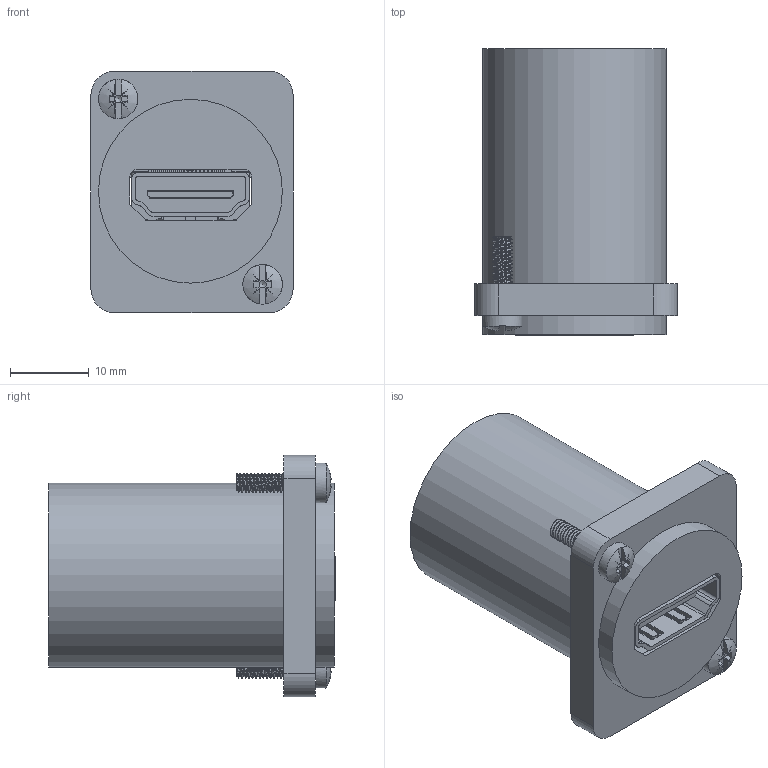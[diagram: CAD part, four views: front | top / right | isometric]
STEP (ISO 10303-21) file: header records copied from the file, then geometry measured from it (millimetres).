
FILE_DESCRIPTION(('FreeCAD Model'),'2;1');
FILE_NAME('Open CASCADE Shape Model','2024-03-11T08:56:15',(''),(''), 'Open CASCADE STEP processor 7.6','FreeCAD','Unknown');
FILE_SCHEMA(('AUTOMOTIVE_DESIGN { 1 0 10303 214 1 1 1 1 }'));
Length unit declared in the file: millimetre
Products named in the file (6): Unnamed; 49152_HDMI_female#002; 49152_HDMI_female#001; Schraube M2,5x10#002; Schraube M2,5x10#001; 49152_Connector
Assembly tree (5 placements, depth 2):
  Unnamed
    49152_HDMI_female#002
    49152_HDMI_female#001
    Schraube M2,5x10#002
    Schraube M2,5x10#001
    49152_Connector
Bounding box: 25.6 x 36.3 x 30.6 mm (x, y, z)
Volume: 4092 mm3; surface area: 9900.3 mm2
Topology: 5 solids, 5 shells, 1037 faces, 2889 edges, 1914 vertices
Faces by surface type: plane 704, cylinder 319, bspline 6, sphere 4, torus 2, cone 2
Full cylindrical faces by diameter (mm): 2.5 x2, 5 x2, 22.5 x1, 23.3 x2
Entity records: 83247 total; most frequent: CARTESIAN_POINT 56540, ORIENTED_EDGE 5774, DIRECTION 5285, EDGE_CURVE 2887, LINE 2139, VECTOR 2139, VERTEX_POINT 1914, AXIS2_PLACEMENT_3D 1573
